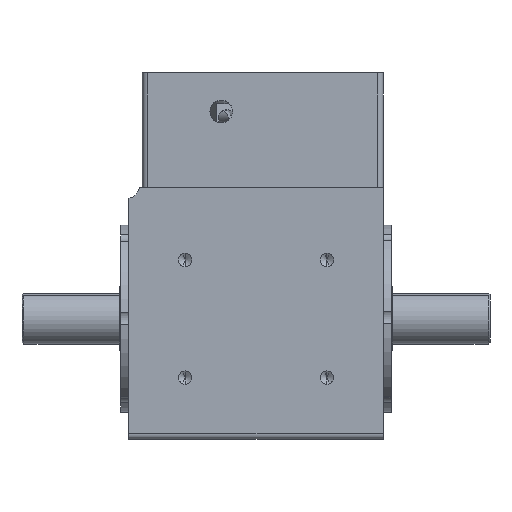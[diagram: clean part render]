
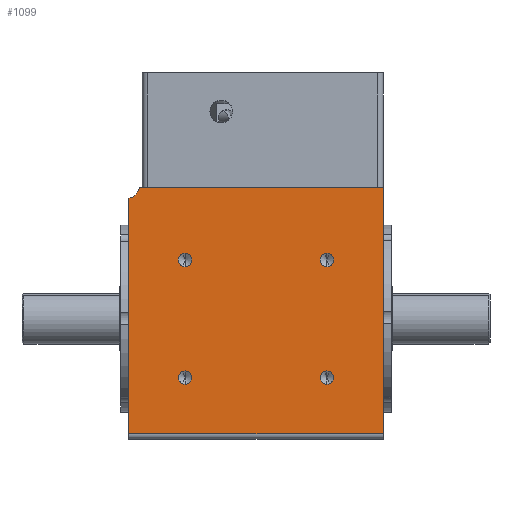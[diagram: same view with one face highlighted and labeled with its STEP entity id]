
A CAD part, front view. The second image highlights one B-rep face of the part: STEP entity #1099.
In plain terms, the highlighted planar face has unit normal (0, -1, 0).
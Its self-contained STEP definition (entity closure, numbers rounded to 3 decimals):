
#234 = DIRECTION ( 'NONE',  ( 0., -1., 0. ) ) ;
#291 = DIRECTION ( 'NONE',  ( 0., 0., -1. ) ) ;
#724 = EDGE_CURVE ( 'NONE', #13500, #5918, #32539, .T. ) ;
#841 = DIRECTION ( 'NONE',  ( 0., 1., 0. ) ) ;
#873 = AXIS2_PLACEMENT_3D ( 'NONE', #31170, #15732, #291 ) ;
#1039 = VERTEX_POINT ( 'NONE', #8665 ) ;
#1099 = ADVANCED_FACE ( 'NONE', ( #17882, #5807, #17084, #4202, #10223 ), #3329, .F. ) ;
#1452 = ORIENTED_EDGE ( 'NONE', *, *, #5957, .F. ) ;
#2893 = EDGE_CURVE ( 'NONE', #30288, #18617, #28324, .T. ) ;
#2967 = CARTESIAN_POINT ( 'NONE',  ( -16.743, -60.486, 69.5 ) ) ;
#3237 = CARTESIAN_POINT ( 'NONE',  ( 36.257, -60.486, 69.5 ) ) ;
#3329 = PLANE ( 'NONE',  #28688 ) ;
#3888 = EDGE_LOOP ( 'NONE', ( #16964, #14238, #5200, #29884, #5554 ) ) ;
#3911 = DIRECTION ( 'NONE',  ( 0., 0., -1. ) ) ;
#3990 = DIRECTION ( 'NONE',  ( 0., -1., 0. ) ) ;
#4166 = EDGE_CURVE ( 'NONE', #24930, #30943, #18566, .T. ) ;
#4202 = FACE_BOUND ( 'NONE', #6937, .T. ) ;
#4292 = CARTESIAN_POINT ( 'NONE',  ( -37.743, -60.486, 2. ) ) ;
#4296 = CARTESIAN_POINT ( 'NONE',  ( 57.257, -60.486, 2. ) ) ;
#4363 = EDGE_CURVE ( 'NONE', #1039, #19561, #21405, .T. ) ;
#4387 = EDGE_LOOP ( 'NONE', ( #26018, #1452 ) ) ;
#4604 = AXIS2_PLACEMENT_3D ( 'NONE', #9624, #27664, #12213 ) ;
#5200 = ORIENTED_EDGE ( 'NONE', *, *, #20499, .F. ) ;
#5554 = ORIENTED_EDGE ( 'NONE', *, *, #2893, .F. ) ;
#5807 = FACE_BOUND ( 'NONE', #24497, .T. ) ;
#5918 = VERTEX_POINT ( 'NONE', #3237 ) ;
#5932 = CARTESIAN_POINT ( 'NONE',  ( -37.743, -60.486, 94. ) ) ;
#5957 = EDGE_CURVE ( 'NONE', #10477, #19096, #28187, .T. ) ;
#6937 = EDGE_LOOP ( 'NONE', ( #31824, #24111 ) ) ;
#7239 = AXIS2_PLACEMENT_3D ( 'NONE', #15417, #33433, #18007 ) ;
#7564 = AXIS2_PLACEMENT_3D ( 'NONE', #11583, #29630, #14184 ) ;
#7874 = CARTESIAN_POINT ( 'NONE',  ( -37.743, -60.486, 94. ) ) ;
#8308 = CARTESIAN_POINT ( 'NONE',  ( 36.257, -60.486, 25.5 ) ) ;
#8665 = CARTESIAN_POINT ( 'NONE',  ( 36.257, -60.486, 20.5 ) ) ;
#8942 = DIRECTION ( 'NONE',  ( 0., 0., -1. ) ) ;
#9037 = DIRECTION ( 'NONE',  ( 0., -1., 0. ) ) ;
#9624 = CARTESIAN_POINT ( 'NONE',  ( -16.743, -60.486, 23. ) ) ;
#10122 = CARTESIAN_POINT ( 'NONE',  ( 36.257, -60.486, 67. ) ) ;
#10182 = CARTESIAN_POINT ( 'NONE',  ( 57.257, -60.486, 94. ) ) ;
#10223 = FACE_OUTER_BOUND ( 'NONE', #3888, .T. ) ;
#10297 = AXIS2_PLACEMENT_3D ( 'NONE', #10122, #25534, #17779 ) ;
#10477 = VERTEX_POINT ( 'NONE', #2967 ) ;
#10927 = CARTESIAN_POINT ( 'NONE',  ( -37.743, -60.486, 90.101 ) ) ;
#11583 = CARTESIAN_POINT ( 'NONE',  ( -38.743, -60.486, 95. ) ) ;
#11904 = CIRCLE ( 'NONE', #7239, 2.5 ) ;
#12213 = DIRECTION ( 'NONE',  ( 0., 0., -1. ) ) ;
#12294 = CIRCLE ( 'NONE', #873, 2.5 ) ;
#12363 = ORIENTED_EDGE ( 'NONE', *, *, #25395, .F. ) ;
#12545 = CIRCLE ( 'NONE', #4604, 2.5 ) ;
#13078 = VECTOR ( 'NONE', #25886, 1000. ) ;
#13500 = VERTEX_POINT ( 'NONE', #22653 ) ;
#13506 = CARTESIAN_POINT ( 'NONE',  ( -16.743, -60.486, 67. ) ) ;
#14184 = DIRECTION ( 'NONE',  ( 0., 0., -1. ) ) ;
#14238 = ORIENTED_EDGE ( 'NONE', *, *, #17754, .T. ) ;
#15301 = ORIENTED_EDGE ( 'NONE', *, *, #29601, .F. ) ;
#15417 = CARTESIAN_POINT ( 'NONE',  ( -16.743, -60.486, 67. ) ) ;
#15681 = CARTESIAN_POINT ( 'NONE',  ( -16.743, -60.486, 23. ) ) ;
#15732 = DIRECTION ( 'NONE',  ( 0., -1., 0. ) ) ;
#15909 = LINE ( 'NONE', #24252, #28849 ) ;
#16130 = DIRECTION ( 'NONE',  ( 0., 0., -1. ) ) ;
#16275 = DIRECTION ( 'NONE',  ( 0., 0., 1. ) ) ;
#16435 = AXIS2_PLACEMENT_3D ( 'NONE', #19428, #3990, #21998 ) ;
#16836 = EDGE_CURVE ( 'NONE', #30288, #28306, #24124, .T. ) ;
#16964 = ORIENTED_EDGE ( 'NONE', *, *, #16836, .T. ) ;
#17084 = FACE_BOUND ( 'NONE', #22807, .T. ) ;
#17754 = EDGE_CURVE ( 'NONE', #28306, #17764, #32146, .T. ) ;
#17764 = VERTEX_POINT ( 'NONE', #4296 ) ;
#17779 = DIRECTION ( 'NONE',  ( 0., 0., -1. ) ) ;
#17882 = FACE_BOUND ( 'NONE', #4387, .T. ) ;
#18007 = DIRECTION ( 'NONE',  ( 0., 0., -1. ) ) ;
#18278 = DIRECTION ( 'NONE',  ( 0., 0., -1. ) ) ;
#18383 = AXIS2_PLACEMENT_3D ( 'NONE', #13506, #31559, #16130 ) ;
#18566 = CIRCLE ( 'NONE', #22276, 2.5 ) ;
#18612 = CARTESIAN_POINT ( 'NONE',  ( -16.743, -60.486, 64.5 ) ) ;
#18617 = VERTEX_POINT ( 'NONE', #25960 ) ;
#19096 = VERTEX_POINT ( 'NONE', #18612 ) ;
#19352 = CARTESIAN_POINT ( 'NONE',  ( -37.743, -60.486, 94. ) ) ;
#19428 = CARTESIAN_POINT ( 'NONE',  ( 36.257, -60.486, 23. ) ) ;
#19561 = VERTEX_POINT ( 'NONE', #8308 ) ;
#19616 = DIRECTION ( 'NONE',  ( 1., 0., 0. ) ) ;
#19956 = LINE ( 'NONE', #7874, #13078 ) ;
#20499 = EDGE_CURVE ( 'NONE', #31961, #17764, #15909, .T. ) ;
#20756 = EDGE_CURVE ( 'NONE', #19096, #10477, #11904, .T. ) ;
#21405 = CIRCLE ( 'NONE', #16435, 2.5 ) ;
#21998 = DIRECTION ( 'NONE',  ( 0., 0., -1. ) ) ;
#22276 = AXIS2_PLACEMENT_3D ( 'NONE', #15681, #234, #18278 ) ;
#22653 = CARTESIAN_POINT ( 'NONE',  ( 36.257, -60.486, 64.5 ) ) ;
#22807 = EDGE_LOOP ( 'NONE', ( #15301, #29277 ) ) ;
#23194 = CIRCLE ( 'NONE', #28683, 2.5 ) ;
#24111 = ORIENTED_EDGE ( 'NONE', *, *, #32899, .F. ) ;
#24124 = LINE ( 'NONE', #19352, #29389 ) ;
#24252 = CARTESIAN_POINT ( 'NONE',  ( 57.257, -60.486, 94. ) ) ;
#24462 = CARTESIAN_POINT ( 'NONE',  ( 36.257, -60.486, 67. ) ) ;
#24497 = EDGE_LOOP ( 'NONE', ( #26645, #12363 ) ) ;
#24930 = VERTEX_POINT ( 'NONE', #27439 ) ;
#25273 = VECTOR ( 'NONE', #19616, 1000. ) ;
#25395 = EDGE_CURVE ( 'NONE', #5918, #13500, #23194, .T. ) ;
#25534 = DIRECTION ( 'NONE',  ( 0., -1., 0. ) ) ;
#25886 = DIRECTION ( 'NONE',  ( 1., 0., 0. ) ) ;
#25960 = CARTESIAN_POINT ( 'NONE',  ( -33.844, -60.486, 94. ) ) ;
#26018 = ORIENTED_EDGE ( 'NONE', *, *, #20756, .F. ) ;
#26645 = ORIENTED_EDGE ( 'NONE', *, *, #724, .F. ) ;
#27054 = DIRECTION ( 'NONE',  ( 0., 0., -1. ) ) ;
#27439 = CARTESIAN_POINT ( 'NONE',  ( -16.743, -60.486, 25.5 ) ) ;
#27664 = DIRECTION ( 'NONE',  ( 0., -1., 0. ) ) ;
#28187 = CIRCLE ( 'NONE', #18383, 2.5 ) ;
#28306 = VERTEX_POINT ( 'NONE', #4292 ) ;
#28324 = CIRCLE ( 'NONE', #7564, 5. ) ;
#28683 = AXIS2_PLACEMENT_3D ( 'NONE', #24462, #9037, #27054 ) ;
#28688 = AXIS2_PLACEMENT_3D ( 'NONE', #5932, #841, #16275 ) ;
#28849 = VECTOR ( 'NONE', #8942, 1000. ) ;
#29277 = ORIENTED_EDGE ( 'NONE', *, *, #4166, .F. ) ;
#29389 = VECTOR ( 'NONE', #3911, 1000. ) ;
#29601 = EDGE_CURVE ( 'NONE', #30943, #24930, #12545, .T. ) ;
#29630 = DIRECTION ( 'NONE',  ( 0., -1., 0. ) ) ;
#29884 = ORIENTED_EDGE ( 'NONE', *, *, #32857, .F. ) ;
#29911 = CARTESIAN_POINT ( 'NONE',  ( 57.257, -60.486, 2. ) ) ;
#30288 = VERTEX_POINT ( 'NONE', #10927 ) ;
#30943 = VERTEX_POINT ( 'NONE', #31959 ) ;
#31170 = CARTESIAN_POINT ( 'NONE',  ( 36.257, -60.486, 23. ) ) ;
#31559 = DIRECTION ( 'NONE',  ( 0., -1., 0. ) ) ;
#31824 = ORIENTED_EDGE ( 'NONE', *, *, #4363, .F. ) ;
#31959 = CARTESIAN_POINT ( 'NONE',  ( -16.743, -60.486, 20.5 ) ) ;
#31961 = VERTEX_POINT ( 'NONE', #10182 ) ;
#32146 = LINE ( 'NONE', #29911, #25273 ) ;
#32539 = CIRCLE ( 'NONE', #10297, 2.5 ) ;
#32857 = EDGE_CURVE ( 'NONE', #18617, #31961, #19956, .T. ) ;
#32899 = EDGE_CURVE ( 'NONE', #19561, #1039, #12294, .T. ) ;
#33433 = DIRECTION ( 'NONE',  ( 0., -1., 0. ) ) ;
